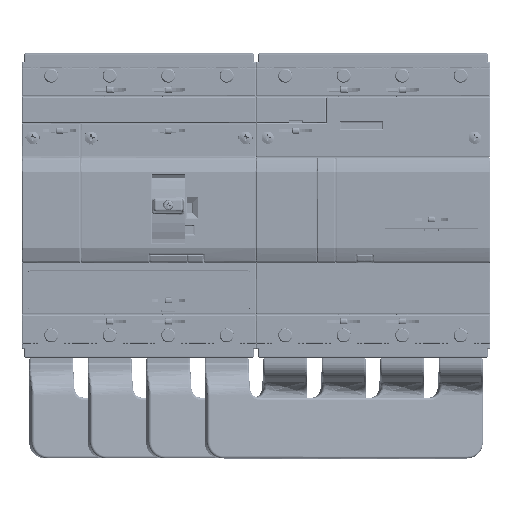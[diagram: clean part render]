
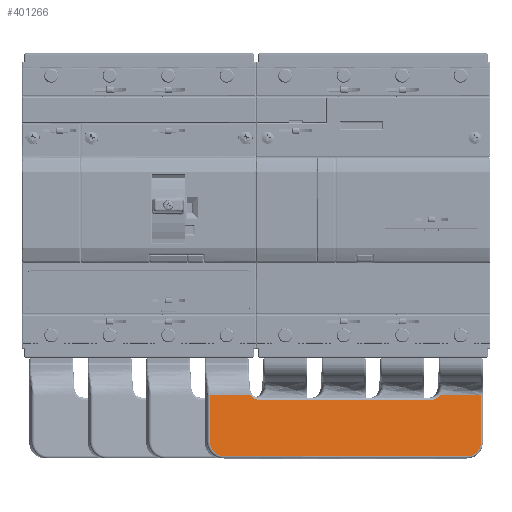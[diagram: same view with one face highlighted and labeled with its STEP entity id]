
A CAD part, top view. The second image highlights one B-rep face of the part: STEP entity #401266.
In plain terms, the highlighted planar face has unit normal (0.259, 0, 0.966).
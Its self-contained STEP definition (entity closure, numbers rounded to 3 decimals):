
#21933 = ORIENTED_EDGE ( 'NONE', *, *, #306296, .F. ) ;
#21934 = ORIENTED_EDGE ( 'NONE', *, *, #306302, .F. ) ;
#21938 = ORIENTED_EDGE ( 'NONE', *, *, #306307, .F. ) ;
#21944 = ORIENTED_EDGE ( 'NONE', *, *, #306313, .T. ) ;
#21948 = ORIENTED_EDGE ( 'NONE', *, *, #306284, .T. ) ;
#21953 = ORIENTED_EDGE ( 'NONE', *, *, #306319, .F. ) ;
#21956 = ORIENTED_EDGE ( 'NONE', *, *, #306326, .F. ) ;
#21960 = ORIENTED_EDGE ( 'NONE', *, *, #306334, .F. ) ;
#21965 = ORIENTED_EDGE ( 'NONE', *, *, #306340, .F. ) ;
#21969 = ORIENTED_EDGE ( 'NONE', *, *, #306345, .T. ) ;
#139188 = AXIS2_PLACEMENT_3D ( 'NONE', #271518, #271522, #271528 ) ;
#194189 = B_SPLINE_CURVE_WITH_KNOTS ( 'NONE', 3,
 ( #537119, #537101, #537128, #537132, #537134, #537137, #537140, #537142, #537145, #537147 ),
 .UNSPECIFIED., .F., .F.,
 ( 4, 2, 2, 2, 4 ),
 ( 0., 0.25, 0.5, 0.75, 1. ),
 .UNSPECIFIED. ) ;
#194195 = B_SPLINE_CURVE_WITH_KNOTS ( 'NONE', 3,
 ( #537169, #537163, #537166, #537173, #537176, #537179, #537182, #537185, #537186, #537188 ),
 .UNSPECIFIED., .F., .F.,
 ( 4, 2, 2, 2, 4 ),
 ( 0., 0.25, 0.5, 0.75, 1. ),
 .UNSPECIFIED. ) ;
#264698 = FACE_OUTER_BOUND ( 'NONE', #464111, .T. ) ;
#271458 = PLANE ( 'NONE',  #139188 ) ;
#271518 = CARTESIAN_POINT ( 'NONE',  ( -31.408, -95.537, -4.649 ) ) ;
#271522 = DIRECTION ( 'NONE',  ( 0.259, 0., 0.966 ) ) ;
#271528 = DIRECTION ( 'NONE',  ( 0.966, 0., -0.259 ) ) ;
#306284 = EDGE_CURVE ( 'NONE', #563742, #563760, #536845, .T. ) ;
#306296 = EDGE_CURVE ( 'NONE', #563756, #563738, #528805, .T. ) ;
#306302 = EDGE_CURVE ( 'NONE', #563734, #563756, #537079, .T. ) ;
#306307 = EDGE_CURVE ( 'NONE', #563768, #563734, #528852, .T. ) ;
#306313 = EDGE_CURVE ( 'NONE', #563768, #563742, #537077, .T. ) ;
#306319 = EDGE_CURVE ( 'NONE', #563746, #563760, #194189, .T. ) ;
#306326 = EDGE_CURVE ( 'NONE', #563777, #563746, #537093, .T. ) ;
#306334 = EDGE_CURVE ( 'NONE', #563765, #563777, #194195, .T. ) ;
#306340 = EDGE_CURVE ( 'NONE', #563716, #563765, #537155, .T. ) ;
#306345 = EDGE_CURVE ( 'NONE', #563716, #563738, #537191, .T. ) ;
#401266 = ADVANCED_FACE ( 'NONE', ( #264698 ), #271458, .T. ) ;
#464111 = EDGE_LOOP ( 'NONE', ( #21933, #21934, #21938, #21944, #21948, #21953, #21956, #21960, #21965, #21969 ) ) ;
#490954 = CARTESIAN_POINT ( 'NONE',  ( -37.204, -75.537, -3.096 ) ) ;
#490973 = CARTESIAN_POINT ( 'NONE',  ( 72.863, -101.537, -32.588 ) ) ;
#490978 = CARTESIAN_POINT ( 'NONE',  ( -37.204, -95.537, -3.096 ) ) ;
#490982 = CARTESIAN_POINT ( 'NONE',  ( 78.659, -75.537, -34.141 ) ) ;
#490987 = CARTESIAN_POINT ( 'NONE',  ( 57.099, -77.537, -28.364 ) ) ;
#490995 = CARTESIAN_POINT ( 'NONE',  ( -31.408, -101.537, -4.649 ) ) ;
#491001 = CARTESIAN_POINT ( 'NONE',  ( 61.019, -75.537, -29.415 ) ) ;
#491005 = CARTESIAN_POINT ( 'NONE',  ( -19.819, -75.537, -7.754 ) ) ;
#491010 = CARTESIAN_POINT ( 'NONE',  ( 78.659, -95.537, -34.141 ) ) ;
#491026 = CARTESIAN_POINT ( 'NONE',  ( -15.953, -77.537, -8.79 ) ) ;
#528805 = CIRCLE ( 'NONE', #528856, 6. ) ;
#528838 = VECTOR ( 'NONE', #537031, 1000. ) ;
#528847 = VECTOR ( 'NONE', #537097, 1000. ) ;
#528852 = CIRCLE ( 'NONE', #528873, 6. ) ;
#528856 = AXIS2_PLACEMENT_3D ( 'NONE', #537082, #537086, #537090 ) ;
#528863 = VECTOR ( 'NONE', #537199, 1000. ) ;
#528868 = VECTOR ( 'NONE', #537122, 1000. ) ;
#528873 = AXIS2_PLACEMENT_3D ( 'NONE', #537110, #537113, #537116 ) ;
#528882 = VECTOR ( 'NONE', #537159, 1000. ) ;
#528892 = VECTOR ( 'NONE', #537207, 1000. ) ;
#536845 = LINE ( 'NONE', #537023, #528838 ) ;
#537023 = CARTESIAN_POINT ( 'NONE',  ( -31.408, -75.537, -4.649 ) ) ;
#537031 = DIRECTION ( 'NONE',  ( -0.966, 0., 0.259 ) ) ;
#537039 = CARTESIAN_POINT ( 'NONE',  ( -31.408, -101.537, -4.649 ) ) ;
#537077 = LINE ( 'NONE', #537105, #528868 ) ;
#537079 = LINE ( 'NONE', #537039, #528847 ) ;
#537082 = CARTESIAN_POINT ( 'NONE',  ( -31.408, -95.537, -4.649 ) ) ;
#537086 = DIRECTION ( 'NONE',  ( -0.259, 0., -0.966 ) ) ;
#537090 = DIRECTION ( 'NONE',  ( 0.966, 0., -0.259 ) ) ;
#537093 = LINE ( 'NONE', #537124, #528882 ) ;
#537097 = DIRECTION ( 'NONE',  ( -0.966, 0., 0.259 ) ) ;
#537101 = CARTESIAN_POINT ( 'NONE',  ( 57.479, -77.537, -28.466 ) ) ;
#537105 = CARTESIAN_POINT ( 'NONE',  ( 78.659, -95.537, -34.141 ) ) ;
#537110 = CARTESIAN_POINT ( 'NONE',  ( 72.863, -95.537, -32.588 ) ) ;
#537113 = DIRECTION ( 'NONE',  ( -0.259, 0., -0.966 ) ) ;
#537116 = DIRECTION ( 'NONE',  ( 0.966, 0., -0.259 ) ) ;
#537119 = CARTESIAN_POINT ( 'NONE',  ( 57.099, -77.537, -28.364 ) ) ;
#537122 = DIRECTION ( 'NONE',  ( 0., 1., 0. ) ) ;
#537124 = CARTESIAN_POINT ( 'NONE',  ( -31.408, -77.537, -4.649 ) ) ;
#537128 = CARTESIAN_POINT ( 'NONE',  ( 57.853, -77.493, -28.566 ) ) ;
#537132 = CARTESIAN_POINT ( 'NONE',  ( 58.585, -77.319, -28.762 ) ) ;
#537134 = CARTESIAN_POINT ( 'NONE',  ( 58.948, -77.186, -28.86 ) ) ;
#537137 = CARTESIAN_POINT ( 'NONE',  ( 59.622, -76.843, -29.04 ) ) ;
#537140 = CARTESIAN_POINT ( 'NONE',  ( 59.94, -76.633, -29.125 ) ) ;
#537142 = CARTESIAN_POINT ( 'NONE',  ( 60.527, -76.133, -29.283 ) ) ;
#537145 = CARTESIAN_POINT ( 'NONE',  ( 60.789, -75.851, -29.353 ) ) ;
#537147 = CARTESIAN_POINT ( 'NONE',  ( 61.019, -75.537, -29.415 ) ) ;
#537152 = CARTESIAN_POINT ( 'NONE',  ( -28.292, -75.537, -5.484 ) ) ;
#537155 = LINE ( 'NONE', #537152, #528863 ) ;
#537159 = DIRECTION ( 'NONE',  ( 0.966, 0., -0.259 ) ) ;
#537163 = CARTESIAN_POINT ( 'NONE',  ( -19.593, -75.849, -7.815 ) ) ;
#537166 = CARTESIAN_POINT ( 'NONE',  ( -19.336, -76.127, -7.883 ) ) ;
#537169 = CARTESIAN_POINT ( 'NONE',  ( -19.819, -75.537, -7.754 ) ) ;
#537173 = CARTESIAN_POINT ( 'NONE',  ( -18.766, -76.621, -8.036 ) ) ;
#537176 = CARTESIAN_POINT ( 'NONE',  ( -18.448, -76.836, -8.121 ) ) ;
#537179 = CARTESIAN_POINT ( 'NONE',  ( -17.783, -77.18, -8.3 ) ) ;
#537182 = CARTESIAN_POINT ( 'NONE',  ( -17.432, -77.313, -8.394 ) ) ;
#537185 = CARTESIAN_POINT ( 'NONE',  ( -16.701, -77.492, -8.59 ) ) ;
#537186 = CARTESIAN_POINT ( 'NONE',  ( -16.33, -77.537, -8.689 ) ) ;
#537188 = CARTESIAN_POINT ( 'NONE',  ( -15.953, -77.537, -8.79 ) ) ;
#537191 = LINE ( 'NONE', #537200, #528892 ) ;
#537199 = DIRECTION ( 'NONE',  ( 0.966, 0., -0.259 ) ) ;
#537200 = CARTESIAN_POINT ( 'NONE',  ( -37.204, -95.537, -3.096 ) ) ;
#537207 = DIRECTION ( 'NONE',  ( 0., -1., 0. ) ) ;
#563716 = VERTEX_POINT ( 'NONE', #490954 ) ;
#563734 = VERTEX_POINT ( 'NONE', #490973 ) ;
#563738 = VERTEX_POINT ( 'NONE', #490978 ) ;
#563742 = VERTEX_POINT ( 'NONE', #490982 ) ;
#563746 = VERTEX_POINT ( 'NONE', #490987 ) ;
#563756 = VERTEX_POINT ( 'NONE', #490995 ) ;
#563760 = VERTEX_POINT ( 'NONE', #491001 ) ;
#563765 = VERTEX_POINT ( 'NONE', #491005 ) ;
#563768 = VERTEX_POINT ( 'NONE', #491010 ) ;
#563777 = VERTEX_POINT ( 'NONE', #491026 ) ;
